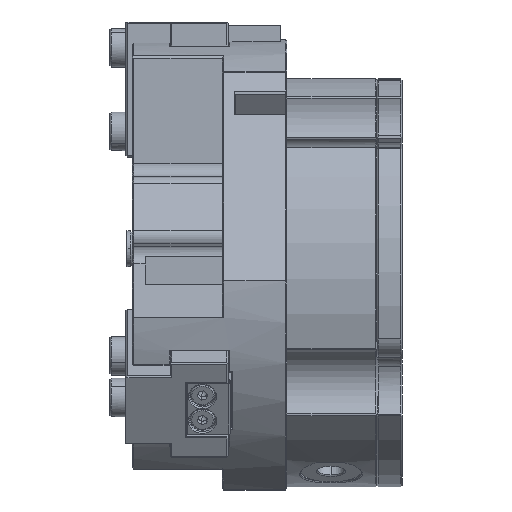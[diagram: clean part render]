
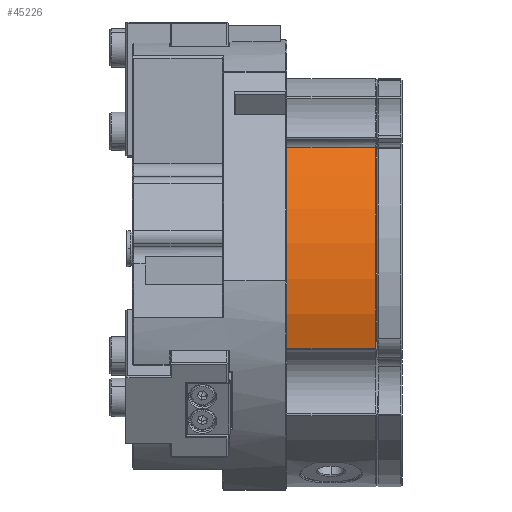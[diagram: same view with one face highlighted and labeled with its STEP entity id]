
A CAD part, left-side view. The second image highlights one B-rep face of the part: STEP entity #45226.
In plain terms, the highlighted cylindrical face has radius 32 mm (diameter 64 mm), a partial arc.
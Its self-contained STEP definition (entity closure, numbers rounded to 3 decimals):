
#384 = VECTOR ( 'NONE', #4676, 1000. ) ;
#2189 = CARTESIAN_POINT ( 'NONE',  ( 0., -37.8, 0. ) ) ;
#4413 = VERTEX_POINT ( 'NONE', #16318 ) ;
#4676 = DIRECTION ( 'NONE',  ( 0., -1., 0. ) ) ;
#5079 = EDGE_LOOP ( 'NONE', ( #10446, #45866, #43577, #17398 ) ) ;
#9510 = CARTESIAN_POINT ( 'NONE',  ( -30.226, -37.8, -10.507 ) ) ;
#10403 = AXIS2_PLACEMENT_3D ( 'NONE', #51553, #38168, #38534 ) ;
#10446 = ORIENTED_EDGE ( 'NONE', *, *, #19675, .T. ) ;
#10685 = DIRECTION ( 'NONE',  ( 0., 1., 0. ) ) ;
#11968 = EDGE_CURVE ( 'NONE', #4413, #12696, #53756, .T. ) ;
#12696 = VERTEX_POINT ( 'NONE', #47237 ) ;
#12930 = DIRECTION ( 'NONE',  ( 0., -1., 0. ) ) ;
#13488 = CARTESIAN_POINT ( 'NONE',  ( -24.413, -37.8, 20.688 ) ) ;
#16318 = CARTESIAN_POINT ( 'NONE',  ( -24.413, -24., 20.688 ) ) ;
#17258 = DIRECTION ( 'NONE',  ( 0., 0., 1. ) ) ;
#17398 = ORIENTED_EDGE ( 'NONE', *, *, #40860, .T. ) ;
#17687 = CARTESIAN_POINT ( 'NONE',  ( -30.226, -38., -10.507 ) ) ;
#18880 = LINE ( 'NONE', #47350, #49242 ) ;
#19675 = EDGE_CURVE ( 'NONE', #27120, #27144, #41754, .T. ) ;
#25521 = CARTESIAN_POINT ( 'NONE',  ( 0., -24., 0. ) ) ;
#27120 = VERTEX_POINT ( 'NONE', #9510 ) ;
#27144 = VERTEX_POINT ( 'NONE', #13488 ) ;
#32501 = EDGE_CURVE ( 'NONE', #27144, #4413, #18880, .T. ) ;
#34332 = DIRECTION ( 'NONE',  ( 0., 1., 0. ) ) ;
#37018 = FACE_OUTER_BOUND ( 'NONE', #5079, .T. ) ;
#38168 = DIRECTION ( 'NONE',  ( 0., 1., 0. ) ) ;
#38534 = DIRECTION ( 'NONE',  ( 0., 0., 1. ) ) ;
#39327 = AXIS2_PLACEMENT_3D ( 'NONE', #25521, #12930, #17258 ) ;
#40842 = DIRECTION ( 'NONE',  ( 0., 0., 1. ) ) ;
#40860 = EDGE_CURVE ( 'NONE', #12696, #27120, #47630, .T. ) ;
#41754 = CIRCLE ( 'NONE', #42223, 32. ) ;
#42223 = AXIS2_PLACEMENT_3D ( 'NONE', #2189, #10685, #40842 ) ;
#43577 = ORIENTED_EDGE ( 'NONE', *, *, #11968, .T. ) ;
#45226 = ADVANCED_FACE ( 'NONE', ( #37018 ), #46564, .T. ) ;
#45866 = ORIENTED_EDGE ( 'NONE', *, *, #32501, .T. ) ;
#46564 = CYLINDRICAL_SURFACE ( 'NONE', #10403, 32. ) ;
#47237 = CARTESIAN_POINT ( 'NONE',  ( -30.226, -24., -10.507 ) ) ;
#47350 = CARTESIAN_POINT ( 'NONE',  ( -24.413, -38., 20.688 ) ) ;
#47630 = LINE ( 'NONE', #17687, #384 ) ;
#49242 = VECTOR ( 'NONE', #34332, 1000. ) ;
#51553 = CARTESIAN_POINT ( 'NONE',  ( 0., -38., 0. ) ) ;
#53756 = CIRCLE ( 'NONE', #39327, 32. ) ;
